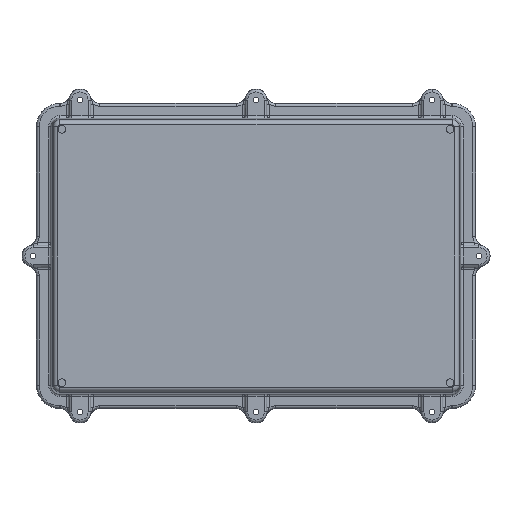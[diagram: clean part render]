
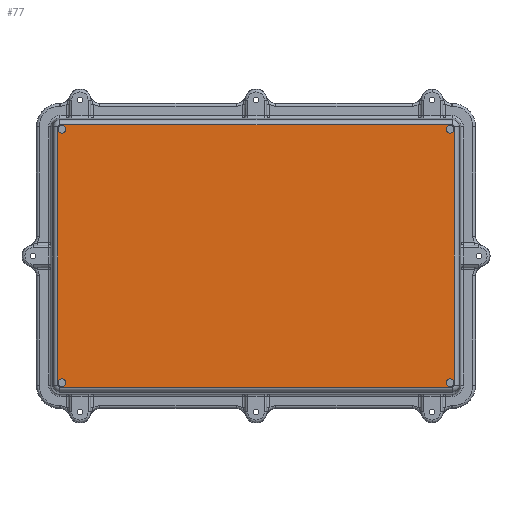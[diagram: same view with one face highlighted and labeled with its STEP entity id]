
A CAD part, front view. The second image highlights one B-rep face of the part: STEP entity #77.
In plain terms, the highlighted planar face has unit normal (0, -1, 0).
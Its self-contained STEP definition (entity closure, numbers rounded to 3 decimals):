
#77 = ADVANCED_FACE ( 'NONE', ( #8154, #25962, #24874, #13488, #18789 ), #7624, .T. ) ;
#243 = EDGE_LOOP ( 'NONE', ( #5138, #2735 ) ) ;
#256 = AXIS2_PLACEMENT_3D ( 'NONE', #19235, #12607, #17028 ) ;
#269 = CIRCLE ( 'NONE', #19938, 2.35 ) ;
#426 = DIRECTION ( 'NONE',  ( 0., 0., -1. ) ) ;
#645 = ORIENTED_EDGE ( 'NONE', *, *, #18401, .T. ) ;
#871 = CARTESIAN_POINT ( 'NONE',  ( 115.75, -39.9, 75.65 ) ) ;
#1107 = DIRECTION ( 'NONE',  ( 0., -1., 0. ) ) ;
#1188 = AXIS2_PLACEMENT_3D ( 'NONE', #24381, #26779, #29123 ) ;
#1390 = CARTESIAN_POINT ( 'NONE',  ( 115.75, -39.9, -73.3 ) ) ;
#1471 = EDGE_LOOP ( 'NONE', ( #16105, #8986 ) ) ;
#1744 = EDGE_CURVE ( 'NONE', #24551, #6125, #14815, .T. ) ;
#1914 = EDGE_CURVE ( 'NONE', #19972, #24614, #29396, .T. ) ;
#1989 = VERTEX_POINT ( 'NONE', #24392 ) ;
#2198 = DIRECTION ( 'NONE',  ( 0., 0., -1. ) ) ;
#2330 = DIRECTION ( 'NONE',  ( 0., 0., -1. ) ) ;
#2556 = EDGE_CURVE ( 'NONE', #10037, #24551, #9123, .T. ) ;
#2735 = ORIENTED_EDGE ( 'NONE', *, *, #8174, .F. ) ;
#3109 = DIRECTION ( 'NONE',  ( 0., 0., -1. ) ) ;
#3210 = VERTEX_POINT ( 'NONE', #16632 ) ;
#3285 = ORIENTED_EDGE ( 'NONE', *, *, #27503, .F. ) ;
#3352 = AXIS2_PLACEMENT_3D ( 'NONE', #871, #18969, #28035 ) ;
#3752 = ORIENTED_EDGE ( 'NONE', *, *, #2556, .T. ) ;
#4422 = CARTESIAN_POINT ( 'NONE',  ( -117., -39.9, 78.16 ) ) ;
#5138 = ORIENTED_EDGE ( 'NONE', *, *, #24534, .F. ) ;
#5343 = DIRECTION ( 'NONE',  ( 0., 0., 1. ) ) ;
#5444 = ORIENTED_EDGE ( 'NONE', *, *, #21591, .T. ) ;
#5518 = VECTOR ( 'NONE', #20162, 1000. ) ;
#5593 = DIRECTION ( 'NONE',  ( 0., -1., 0. ) ) ;
#5623 = CARTESIAN_POINT ( 'NONE',  ( 117., -39.9, 78.16 ) ) ;
#6125 = VERTEX_POINT ( 'NONE', #5623 ) ;
#6675 = CARTESIAN_POINT ( 'NONE',  ( -118.16, -39.9, 77. ) ) ;
#6690 = CARTESIAN_POINT ( 'NONE',  ( -115.75, -39.9, -78. ) ) ;
#6873 = CARTESIAN_POINT ( 'NONE',  ( -115.75, -39.9, 75.65 ) ) ;
#7465 = CIRCLE ( 'NONE', #27554, 1.16 ) ;
#7598 = AXIS2_PLACEMENT_3D ( 'NONE', #8139, #17357, #8442 ) ;
#7624 = PLANE ( 'NONE',  #28910 ) ;
#7639 = EDGE_CURVE ( 'NONE', #1989, #14896, #14852, .T. ) ;
#7721 = CIRCLE ( 'NONE', #18797, 2.35 ) ;
#8122 = EDGE_CURVE ( 'NONE', #24614, #19840, #17686, .T. ) ;
#8139 = CARTESIAN_POINT ( 'NONE',  ( -117., -39.9, -77. ) ) ;
#8154 = FACE_BOUND ( 'NONE', #243, .T. ) ;
#8174 = EDGE_CURVE ( 'NONE', #18943, #14534, #8801, .T. ) ;
#8294 = EDGE_CURVE ( 'NONE', #8857, #3210, #7721, .T. ) ;
#8352 = AXIS2_PLACEMENT_3D ( 'NONE', #19046, #5593, #23839 ) ;
#8442 = DIRECTION ( 'NONE',  ( 0., 0., -1. ) ) ;
#8453 = CARTESIAN_POINT ( 'NONE',  ( 117., -39.9, -78.16 ) ) ;
#8801 = CIRCLE ( 'NONE', #20921, 2.35 ) ;
#8857 = VERTEX_POINT ( 'NONE', #29211 ) ;
#8986 = ORIENTED_EDGE ( 'NONE', *, *, #7639, .F. ) ;
#9024 = CARTESIAN_POINT ( 'NONE',  ( 117., -39.9, 77. ) ) ;
#9123 = LINE ( 'NONE', #12065, #20124 ) ;
#9792 = DIRECTION ( 'NONE',  ( 0., -1., 0. ) ) ;
#9929 = DIRECTION ( 'NONE',  ( 0., -1., 0. ) ) ;
#10037 = VERTEX_POINT ( 'NONE', #20965 ) ;
#10787 = CARTESIAN_POINT ( 'NONE',  ( -117., -39.9, 78.16 ) ) ;
#11019 = DIRECTION ( 'NONE',  ( 0., -1., 0. ) ) ;
#11067 = CIRCLE ( 'NONE', #24434, 1.16 ) ;
#11190 = CARTESIAN_POINT ( 'NONE',  ( 115.75, -39.9, -78. ) ) ;
#11750 = ORIENTED_EDGE ( 'NONE', *, *, #8294, .F. ) ;
#12065 = CARTESIAN_POINT ( 'NONE',  ( 118.16, -39.9, 77. ) ) ;
#12127 = DIRECTION ( 'NONE',  ( 0., 0., -1. ) ) ;
#12191 = CARTESIAN_POINT ( 'NONE',  ( 117., -39.9, -78.16 ) ) ;
#12280 = CARTESIAN_POINT ( 'NONE',  ( 115.75, -39.9, -75.65 ) ) ;
#12436 = ORIENTED_EDGE ( 'NONE', *, *, #12482, .F. ) ;
#12482 = EDGE_CURVE ( 'NONE', #13214, #27733, #269, .T. ) ;
#12607 = DIRECTION ( 'NONE',  ( 0., -1., 0. ) ) ;
#12947 = LINE ( 'NONE', #4422, #5518 ) ;
#13214 = VERTEX_POINT ( 'NONE', #1390 ) ;
#13488 = FACE_BOUND ( 'NONE', #19363, .T. ) ;
#13861 = DIRECTION ( 'NONE',  ( 0., 0., -1. ) ) ;
#14474 = EDGE_CURVE ( 'NONE', #6125, #25964, #12947, .T. ) ;
#14534 = VERTEX_POINT ( 'NONE', #6690 ) ;
#14815 = CIRCLE ( 'NONE', #26522, 1.16 ) ;
#14833 = CARTESIAN_POINT ( 'NONE',  ( -115.75, -39.9, -73.3 ) ) ;
#14852 = CIRCLE ( 'NONE', #1188, 2.35 ) ;
#14869 = DIRECTION ( 'NONE',  ( 0., -1., 0. ) ) ;
#14896 = VERTEX_POINT ( 'NONE', #21525 ) ;
#15359 = LINE ( 'NONE', #8453, #27124 ) ;
#15446 = DIRECTION ( 'NONE',  ( 0., 0., 1. ) ) ;
#16105 = ORIENTED_EDGE ( 'NONE', *, *, #29221, .F. ) ;
#16182 = CIRCLE ( 'NONE', #21147, 2.35 ) ;
#16416 = DIRECTION ( 'NONE',  ( 0., -1., 0. ) ) ;
#16632 = CARTESIAN_POINT ( 'NONE',  ( -115.75, -39.9, 73.3 ) ) ;
#17028 = DIRECTION ( 'NONE',  ( 0., 0., -1. ) ) ;
#17112 = EDGE_CURVE ( 'NONE', #25735, #10037, #11067, .T. ) ;
#17257 = DIRECTION ( 'NONE',  ( 0., 0., -1. ) ) ;
#17357 = DIRECTION ( 'NONE',  ( 0., -1., 0. ) ) ;
#17646 = CARTESIAN_POINT ( 'NONE',  ( 118.16, -39.9, 77. ) ) ;
#17686 = CIRCLE ( 'NONE', #7598, 1.16 ) ;
#17926 = CARTESIAN_POINT ( 'NONE',  ( -118.16, -39.9, -77. ) ) ;
#17963 = ORIENTED_EDGE ( 'NONE', *, *, #26993, .F. ) ;
#18124 = EDGE_LOOP ( 'NONE', ( #3752, #21612, #28495, #645, #18873, #24804, #5444, #19298 ) ) ;
#18401 = EDGE_CURVE ( 'NONE', #25964, #19972, #7465, .T. ) ;
#18789 = FACE_OUTER_BOUND ( 'NONE', #18124, .T. ) ;
#18797 = AXIS2_PLACEMENT_3D ( 'NONE', #6873, #20844, #13861 ) ;
#18855 = CARTESIAN_POINT ( 'NONE',  ( -115.75, -39.9, 75.65 ) ) ;
#18873 = ORIENTED_EDGE ( 'NONE', *, *, #1914, .T. ) ;
#18943 = VERTEX_POINT ( 'NONE', #14833 ) ;
#18969 = DIRECTION ( 'NONE',  ( 0., -1., 0. ) ) ;
#19046 = CARTESIAN_POINT ( 'NONE',  ( -115.75, -39.9, -75.65 ) ) ;
#19235 = CARTESIAN_POINT ( 'NONE',  ( 115.75, -39.9, -75.65 ) ) ;
#19298 = ORIENTED_EDGE ( 'NONE', *, *, #17112, .T. ) ;
#19363 = EDGE_LOOP ( 'NONE', ( #17963, #11750 ) ) ;
#19559 = CARTESIAN_POINT ( 'NONE',  ( -118.16, -39.9, -77. ) ) ;
#19571 = CARTESIAN_POINT ( 'NONE',  ( -117., -39.9, -78.16 ) ) ;
#19840 = VERTEX_POINT ( 'NONE', #19571 ) ;
#19938 = AXIS2_PLACEMENT_3D ( 'NONE', #12280, #1107, #21416 ) ;
#19972 = VERTEX_POINT ( 'NONE', #6675 ) ;
#20124 = VECTOR ( 'NONE', #5343, 1000. ) ;
#20150 = CARTESIAN_POINT ( 'NONE',  ( -115.75, -39.9, -75.65 ) ) ;
#20162 = DIRECTION ( 'NONE',  ( -1., 0., 0. ) ) ;
#20844 = DIRECTION ( 'NONE',  ( 0., -1., 0. ) ) ;
#20921 = AXIS2_PLACEMENT_3D ( 'NONE', #20150, #11019, #15446 ) ;
#20965 = CARTESIAN_POINT ( 'NONE',  ( 118.16, -39.9, -77. ) ) ;
#21042 = CARTESIAN_POINT ( 'NONE',  ( -117., -39.9, 77. ) ) ;
#21139 = CARTESIAN_POINT ( 'NONE',  ( 117., -39.9, -77. ) ) ;
#21147 = AXIS2_PLACEMENT_3D ( 'NONE', #18855, #9929, #12127 ) ;
#21416 = DIRECTION ( 'NONE',  ( 0., 0., -1. ) ) ;
#21525 = CARTESIAN_POINT ( 'NONE',  ( 115.75, -39.9, 73.3 ) ) ;
#21591 = EDGE_CURVE ( 'NONE', #19840, #25735, #15359, .T. ) ;
#21612 = ORIENTED_EDGE ( 'NONE', *, *, #1744, .T. ) ;
#22087 = DIRECTION ( 'NONE',  ( 1., 0., 0. ) ) ;
#23115 = CIRCLE ( 'NONE', #8352, 2.35 ) ;
#23839 = DIRECTION ( 'NONE',  ( 0., 0., 1. ) ) ;
#24381 = CARTESIAN_POINT ( 'NONE',  ( 115.75, -39.9, 75.65 ) ) ;
#24392 = CARTESIAN_POINT ( 'NONE',  ( 115.75, -39.9, 78. ) ) ;
#24434 = AXIS2_PLACEMENT_3D ( 'NONE', #21139, #16416, #3109 ) ;
#24534 = EDGE_CURVE ( 'NONE', #14534, #18943, #23115, .T. ) ;
#24551 = VERTEX_POINT ( 'NONE', #17646 ) ;
#24614 = VERTEX_POINT ( 'NONE', #19559 ) ;
#24804 = ORIENTED_EDGE ( 'NONE', *, *, #8122, .T. ) ;
#24874 = FACE_BOUND ( 'NONE', #1471, .T. ) ;
#25115 = DIRECTION ( 'NONE',  ( 0., -1., 0. ) ) ;
#25454 = CIRCLE ( 'NONE', #256, 2.35 ) ;
#25489 = VECTOR ( 'NONE', #2198, 1000. ) ;
#25735 = VERTEX_POINT ( 'NONE', #12191 ) ;
#25758 = CIRCLE ( 'NONE', #3352, 2.35 ) ;
#25962 = FACE_BOUND ( 'NONE', #28855, .T. ) ;
#25964 = VERTEX_POINT ( 'NONE', #10787 ) ;
#26347 = CARTESIAN_POINT ( 'NONE',  ( -117., -39.9, 77. ) ) ;
#26522 = AXIS2_PLACEMENT_3D ( 'NONE', #9024, #25115, #2330 ) ;
#26779 = DIRECTION ( 'NONE',  ( 0., -1., 0. ) ) ;
#26993 = EDGE_CURVE ( 'NONE', #3210, #8857, #16182, .T. ) ;
#27124 = VECTOR ( 'NONE', #22087, 1000. ) ;
#27503 = EDGE_CURVE ( 'NONE', #27733, #13214, #25454, .T. ) ;
#27554 = AXIS2_PLACEMENT_3D ( 'NONE', #26347, #14869, #17257 ) ;
#27733 = VERTEX_POINT ( 'NONE', #11190 ) ;
#28035 = DIRECTION ( 'NONE',  ( 0., 0., 1. ) ) ;
#28495 = ORIENTED_EDGE ( 'NONE', *, *, #14474, .T. ) ;
#28855 = EDGE_LOOP ( 'NONE', ( #3285, #12436 ) ) ;
#28910 = AXIS2_PLACEMENT_3D ( 'NONE', #21042, #9792, #426 ) ;
#29123 = DIRECTION ( 'NONE',  ( 0., 0., 1. ) ) ;
#29211 = CARTESIAN_POINT ( 'NONE',  ( -115.75, -39.9, 78. ) ) ;
#29221 = EDGE_CURVE ( 'NONE', #14896, #1989, #25758, .T. ) ;
#29396 = LINE ( 'NONE', #17926, #25489 ) ;
